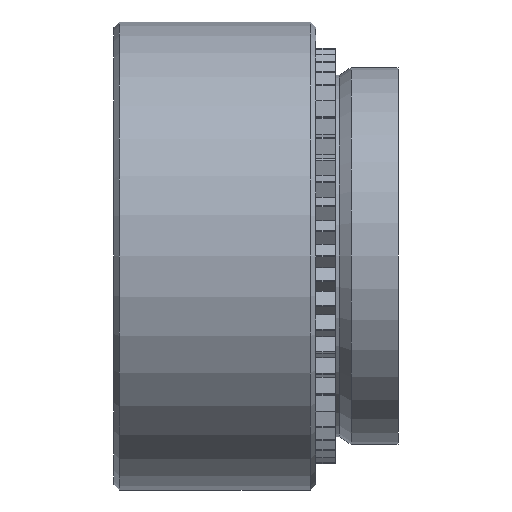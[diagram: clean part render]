
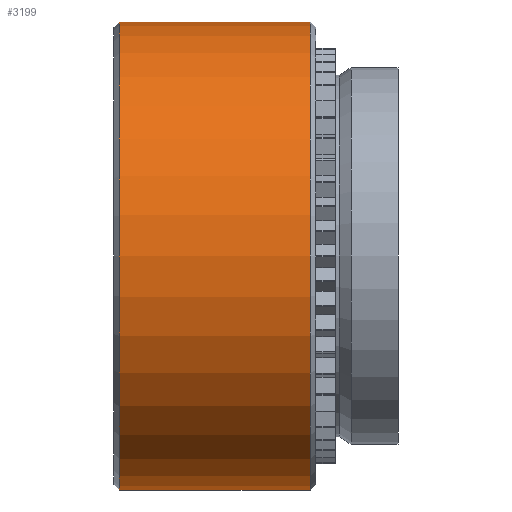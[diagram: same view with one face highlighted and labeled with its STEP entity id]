
A CAD part, left-side view. The second image highlights one B-rep face of the part: STEP entity #3199.
In plain terms, the highlighted cylindrical face has radius 8.675 mm (diameter 17.35 mm), a full revolution.
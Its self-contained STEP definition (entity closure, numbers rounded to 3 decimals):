
#127=CYLINDRICAL_SURFACE('',#3394,8.675);
#184=FACE_OUTER_BOUND('',#353,.T.);
#353=EDGE_LOOP('',(#2214,#2215,#2216,#2217,#2218,#2219));
#526=LINE('',#4643,#899);
#899=VECTOR('',#3695,8.675);
#1271=CIRCLE('',#3391,8.675);
#1272=CIRCLE('',#3392,8.675);
#1274=CIRCLE('',#3395,8.675);
#1275=CIRCLE('',#3396,8.675);
#1390=VERTEX_POINT('',#4631);
#1391=VERTEX_POINT('',#4632);
#1393=VERTEX_POINT('',#4639);
#1394=VERTEX_POINT('',#4640);
#1717=EDGE_CURVE('',#1390,#1391,#1271,.T.);
#1718=EDGE_CURVE('',#1391,#1390,#1272,.T.);
#1721=EDGE_CURVE('',#1393,#1394,#1274,.T.);
#1722=EDGE_CURVE('',#1394,#1393,#1275,.T.);
#1723=EDGE_CURVE('',#1394,#1391,#526,.T.);
#2214=ORIENTED_EDGE('',*,*,#1721,.F.);
#2215=ORIENTED_EDGE('',*,*,#1722,.F.);
#2216=ORIENTED_EDGE('',*,*,#1723,.T.);
#2217=ORIENTED_EDGE('',*,*,#1717,.F.);
#2218=ORIENTED_EDGE('',*,*,#1718,.F.);
#2219=ORIENTED_EDGE('',*,*,#1723,.F.);
#3199=ADVANCED_FACE('',(#184),#127,.T.);
#3391=AXIS2_PLACEMENT_3D('',#4633,#3682,#3683);
#3392=AXIS2_PLACEMENT_3D('',#4634,#3684,#3685);
#3394=AXIS2_PLACEMENT_3D('',#4638,#3689,#3690);
#3395=AXIS2_PLACEMENT_3D('',#4641,#3691,#3692);
#3396=AXIS2_PLACEMENT_3D('',#4642,#3693,#3694);
#3682=DIRECTION('center_axis',(0.,-1.,0.));
#3683=DIRECTION('ref_axis',(1.,0.,0.));
#3684=DIRECTION('center_axis',(0.,-1.,0.));
#3685=DIRECTION('ref_axis',(1.,0.,0.));
#3689=DIRECTION('center_axis',(0.,1.,0.));
#3690=DIRECTION('ref_axis',(-1.,0.,0.));
#3691=DIRECTION('center_axis',(0.,1.,0.));
#3692=DIRECTION('ref_axis',(1.,0.,0.));
#3693=DIRECTION('center_axis',(0.,1.,0.));
#3694=DIRECTION('ref_axis',(1.,0.,0.));
#3695=DIRECTION('',(0.,-1.,0.));
#4631=CARTESIAN_POINT('',(-8.675,3.25,0.));
#4632=CARTESIAN_POINT('',(8.675,3.25,0.));
#4633=CARTESIAN_POINT('Origin',(0.,3.25,0.));
#4634=CARTESIAN_POINT('Origin',(0.,3.25,0.));
#4638=CARTESIAN_POINT('Origin',(0.,6.79,0.));
#4639=CARTESIAN_POINT('',(-8.675,10.33,0.));
#4640=CARTESIAN_POINT('',(8.675,10.33,0.));
#4641=CARTESIAN_POINT('Origin',(0.,10.33,0.));
#4642=CARTESIAN_POINT('Origin',(0.,10.33,0.));
#4643=CARTESIAN_POINT('',(8.675,6.79,0.));
